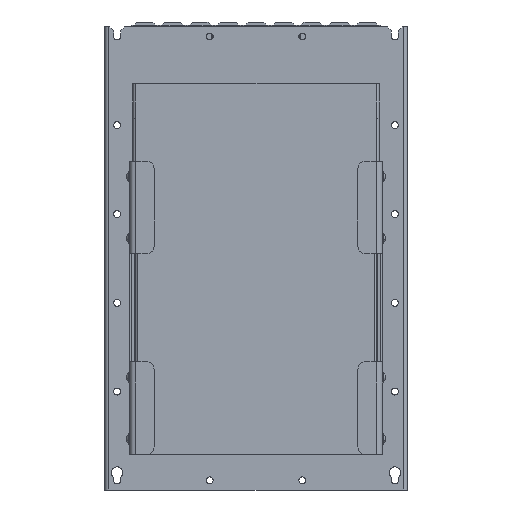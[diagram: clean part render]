
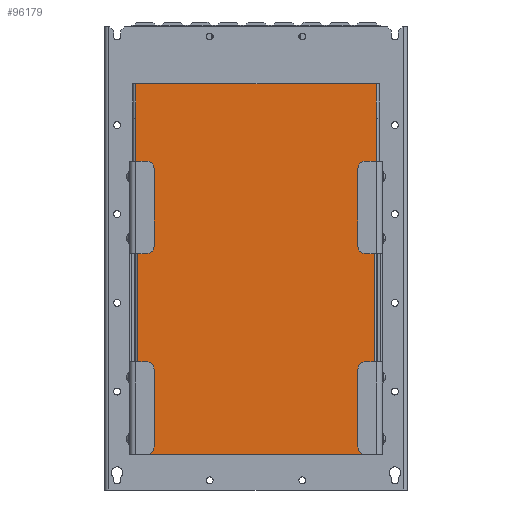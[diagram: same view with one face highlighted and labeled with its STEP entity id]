
A CAD part, front view. The second image highlights one B-rep face of the part: STEP entity #96179.
In plain terms, the highlighted planar face has unit normal (0, -1, 0).
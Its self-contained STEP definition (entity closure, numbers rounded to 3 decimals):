
#1397 = ORIENTED_EDGE ( 'NONE', *, *, #67826, .T. ) ;
#2025 = CARTESIAN_POINT ( 'NONE',  ( 153., -126., 426. ) ) ;
#2164 = VERTEX_POINT ( 'NONE', #79667 ) ;
#2900 = EDGE_CURVE ( 'NONE', #95849, #13503, #39300, .T. ) ;
#4975 = LINE ( 'NONE', #21205, #98954 ) ;
#5620 = VERTEX_POINT ( 'NONE', #108357 ) ;
#9643 = VECTOR ( 'NONE', #68139, 1000. ) ;
#10544 = LINE ( 'NONE', #97646, #14378 ) ;
#10889 = LINE ( 'NONE', #88532, #58117 ) ;
#11345 = LINE ( 'NONE', #61118, #93362 ) ;
#12354 = EDGE_CURVE ( 'NONE', #13503, #88910, #106081, .T. ) ;
#13239 = CARTESIAN_POINT ( 'NONE',  ( 153., -126., 46. ) ) ;
#13503 = VERTEX_POINT ( 'NONE', #13239 ) ;
#14378 = VECTOR ( 'NONE', #21120, 1000. ) ;
#15584 = EDGE_CURVE ( 'NONE', #107704, #23960, #48895, .T. ) ;
#17282 = CARTESIAN_POINT ( 'NONE',  ( -164., -126., 46. ) ) ;
#18623 = CARTESIAN_POINT ( 'NONE',  ( -153., -126., 46. ) ) ;
#21120 = DIRECTION ( 'NONE',  ( 1., 0., 0. ) ) ;
#21205 = CARTESIAN_POINT ( 'NONE',  ( -155.9, -126., 526. ) ) ;
#23960 = VERTEX_POINT ( 'NONE', #44011 ) ;
#25052 = EDGE_CURVE ( 'NONE', #2164, #107704, #10889, .T. ) ;
#26723 = EDGE_LOOP ( 'NONE', ( #80685, #92363, #94838, #1397, #85415, #101866, #63550, #103653 ) ) ;
#32503 = EDGE_CURVE ( 'NONE', #5620, #95849, #11345, .T. ) ;
#34623 = CARTESIAN_POINT ( 'NONE',  ( 144., -126., -374. ) ) ;
#39300 = LINE ( 'NONE', #17282, #9643 ) ;
#41903 = PLANE ( 'NONE',  #71029 ) ;
#42147 = EDGE_CURVE ( 'NONE', #23960, #83409, #4975, .T. ) ;
#44011 = CARTESIAN_POINT ( 'NONE',  ( -155.9, -126., 526. ) ) ;
#44999 = DIRECTION ( 'NONE',  ( 0., 0., 1. ) ) ;
#45255 = CARTESIAN_POINT ( 'NONE',  ( -155.9, -126., 426. ) ) ;
#45766 = VECTOR ( 'NONE', #90799, 1000. ) ;
#48895 = LINE ( 'NONE', #56722, #45766 ) ;
#50431 = VECTOR ( 'NONE', #53071, 1000. ) ;
#50811 = DIRECTION ( 'NONE',  ( 0., 0., -1. ) ) ;
#53071 = DIRECTION ( 'NONE',  ( 0., 0., 1. ) ) ;
#53968 = CARTESIAN_POINT ( 'NONE',  ( 0., -126., 426. ) ) ;
#56722 = CARTESIAN_POINT ( 'NONE',  ( -159.4, -126., 526. ) ) ;
#58117 = VECTOR ( 'NONE', #44999, 1000. ) ;
#61118 = CARTESIAN_POINT ( 'NONE',  ( -153., -126., 426. ) ) ;
#63550 = ORIENTED_EDGE ( 'NONE', *, *, #42147, .T. ) ;
#67012 = DIRECTION ( 'NONE',  ( 0., 1., 0. ) ) ;
#67826 = EDGE_CURVE ( 'NONE', #88910, #2164, #10544, .T. ) ;
#68139 = DIRECTION ( 'NONE',  ( 1., 0., 0. ) ) ;
#68918 = EDGE_CURVE ( 'NONE', #83409, #5620, #86414, .T. ) ;
#71029 = AXIS2_PLACEMENT_3D ( 'NONE', #34623, #67012, #50811 ) ;
#77613 = FACE_OUTER_BOUND ( 'NONE', #26723, .T. ) ;
#79667 = CARTESIAN_POINT ( 'NONE',  ( 155.9, -126., 426. ) ) ;
#80685 = ORIENTED_EDGE ( 'NONE', *, *, #32503, .T. ) ;
#83409 = VERTEX_POINT ( 'NONE', #45255 ) ;
#85415 = ORIENTED_EDGE ( 'NONE', *, *, #25052, .T. ) ;
#86414 = LINE ( 'NONE', #53968, #103812 ) ;
#88532 = CARTESIAN_POINT ( 'NONE',  ( 155.9, -126., 426. ) ) ;
#88581 = DIRECTION ( 'NONE',  ( 1., 0., 0. ) ) ;
#88910 = VERTEX_POINT ( 'NONE', #2025 ) ;
#90799 = DIRECTION ( 'NONE',  ( -1., 0., 0. ) ) ;
#92363 = ORIENTED_EDGE ( 'NONE', *, *, #2900, .T. ) ;
#92460 = CARTESIAN_POINT ( 'NONE',  ( 155.9, -126., 526. ) ) ;
#93362 = VECTOR ( 'NONE', #95177, 1000. ) ;
#94838 = ORIENTED_EDGE ( 'NONE', *, *, #12354, .T. ) ;
#95177 = DIRECTION ( 'NONE',  ( 0., 0., -1. ) ) ;
#95849 = VERTEX_POINT ( 'NONE', #18623 ) ;
#96179 = ADVANCED_FACE ( 'NONE', ( #77613 ), #41903, .F. ) ;
#97646 = CARTESIAN_POINT ( 'NONE',  ( 0., -126., 426. ) ) ;
#98840 = DIRECTION ( 'NONE',  ( 0., 0., -1. ) ) ;
#98954 = VECTOR ( 'NONE', #98840, 1000. ) ;
#101866 = ORIENTED_EDGE ( 'NONE', *, *, #15584, .T. ) ;
#103653 = ORIENTED_EDGE ( 'NONE', *, *, #68918, .T. ) ;
#103812 = VECTOR ( 'NONE', #88581, 1000. ) ;
#105555 = CARTESIAN_POINT ( 'NONE',  ( 153., -126., -374. ) ) ;
#106081 = LINE ( 'NONE', #105555, #50431 ) ;
#107704 = VERTEX_POINT ( 'NONE', #92460 ) ;
#108357 = CARTESIAN_POINT ( 'NONE',  ( -153., -126., 426. ) ) ;
